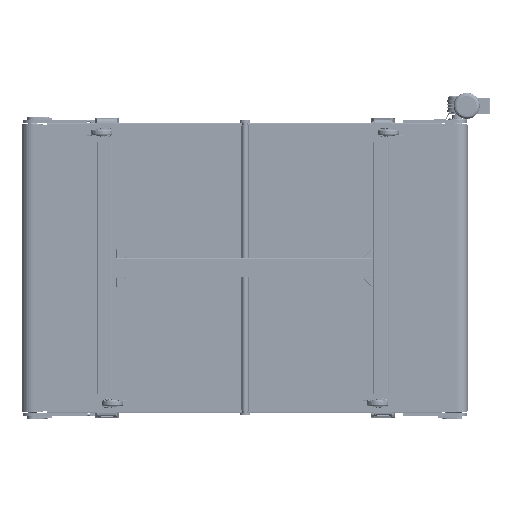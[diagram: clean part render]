
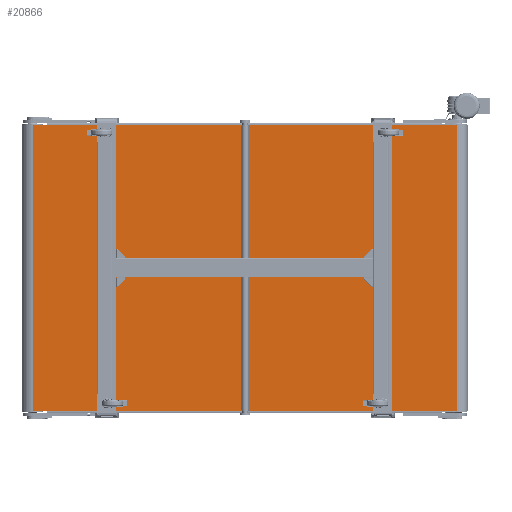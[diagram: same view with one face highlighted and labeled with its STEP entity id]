
A CAD part, front view. The second image highlights one B-rep face of the part: STEP entity #20866.
In plain terms, the highlighted planar face has unit normal (0, -1, 0).
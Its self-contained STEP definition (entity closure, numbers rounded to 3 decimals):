
#1385 = CARTESIAN_POINT ( 'NONE',  ( 1000., -49.5, 675. ) ) ;
#6402 = DIRECTION ( 'NONE',  ( 1., 0., 0. ) ) ;
#17125 = LINE ( 'NONE', #78217, #41137 ) ;
#18775 = CARTESIAN_POINT ( 'NONE',  ( 1000., -49.5, -675. ) ) ;
#20588 = VERTEX_POINT ( 'NONE', #32451 ) ;
#20866 = ADVANCED_FACE ( 'NONE', ( #126560 ), #205924, .F. ) ;
#22323 = VERTEX_POINT ( 'NONE', #18775 ) ;
#27698 = DIRECTION ( 'NONE',  ( 0., 0., 1. ) ) ;
#28020 = EDGE_LOOP ( 'NONE', ( #114814, #122985, #184276, #60039 ) ) ;
#32451 = CARTESIAN_POINT ( 'NONE',  ( -1000., -49.5, 675. ) ) ;
#41137 = VECTOR ( 'NONE', #196595, 1000. ) ;
#50388 = EDGE_CURVE ( 'NONE', #20588, #163415, #83125, .T. ) ;
#60039 = ORIENTED_EDGE ( 'NONE', *, *, #203463, .T. ) ;
#60871 = EDGE_CURVE ( 'NONE', #163415, #22323, #133926, .T. ) ;
#68423 = EDGE_CURVE ( 'NONE', #71445, #22323, #17125, .T. ) ;
#71445 = VERTEX_POINT ( 'NONE', #190919 ) ;
#78217 = CARTESIAN_POINT ( 'NONE',  ( -1000., -49.5, -675. ) ) ;
#83125 = LINE ( 'NONE', #226113, #182232 ) ;
#99363 = LINE ( 'NONE', #200823, #222314 ) ;
#114814 = ORIENTED_EDGE ( 'NONE', *, *, #68423, .T. ) ;
#122985 = ORIENTED_EDGE ( 'NONE', *, *, #60871, .F. ) ;
#126560 = FACE_OUTER_BOUND ( 'NONE', #28020, .T. ) ;
#133926 = LINE ( 'NONE', #213212, #147440 ) ;
#140307 = AXIS2_PLACEMENT_3D ( 'NONE', #241070, #143545, #27698 ) ;
#143545 = DIRECTION ( 'NONE',  ( 0., 1., 0. ) ) ;
#147440 = VECTOR ( 'NONE', #196293, 1000. ) ;
#163415 = VERTEX_POINT ( 'NONE', #1385 ) ;
#178740 = DIRECTION ( 'NONE',  ( 0., 0., -1. ) ) ;
#182232 = VECTOR ( 'NONE', #6402, 1000. ) ;
#184276 = ORIENTED_EDGE ( 'NONE', *, *, #50388, .F. ) ;
#190919 = CARTESIAN_POINT ( 'NONE',  ( -1000., -49.5, -675. ) ) ;
#196293 = DIRECTION ( 'NONE',  ( 0., 0., -1. ) ) ;
#196595 = DIRECTION ( 'NONE',  ( 1., 0., 0. ) ) ;
#200823 = CARTESIAN_POINT ( 'NONE',  ( -1000., -49.5, 675. ) ) ;
#203463 = EDGE_CURVE ( 'NONE', #20588, #71445, #99363, .T. ) ;
#205924 = PLANE ( 'NONE',  #140307 ) ;
#213212 = CARTESIAN_POINT ( 'NONE',  ( 1000., -49.5, 675. ) ) ;
#222314 = VECTOR ( 'NONE', #178740, 1000. ) ;
#226113 = CARTESIAN_POINT ( 'NONE',  ( -1000., -49.5, 675. ) ) ;
#241070 = CARTESIAN_POINT ( 'NONE',  ( -1000., -49.5, 675. ) ) ;
